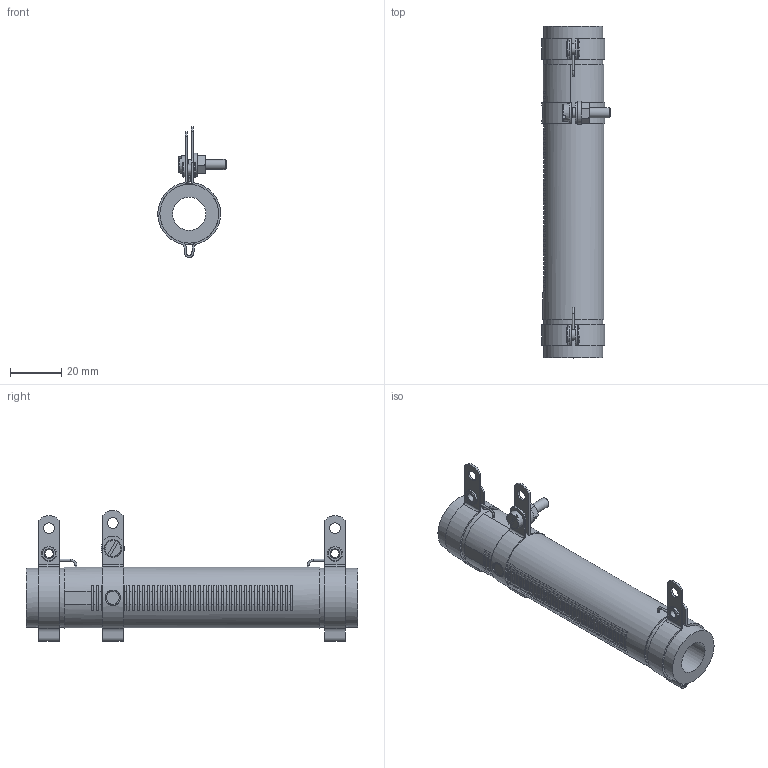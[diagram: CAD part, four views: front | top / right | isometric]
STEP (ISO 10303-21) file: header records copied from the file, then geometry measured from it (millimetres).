
FILE_DESCRIPTION(/* description */ (''),/* implementation_level */ '2;1');
FILE_NAME(/* name */ 'C:\_Vault\Dati\CATALOGO\RC-RS\RCR-RSR TC\RSR TC 90.stp',/* time_stamp */ '2014-03-20T11:27:21+01:00',/* author */ ('stefano'),/* organization */ (''),/* preprocessor_version */ 'ST-DEVELOPER v15.2',/* originating_system */ 'Autodesk Inventor 2014',/* authorisation */ '');
FILE_SCHEMA (('AUTOMOTIVE_DESIGN { 1 0 10303 214 3 1 1 }'));
Length unit declared in the file: millimetre
Products named in the file (1): RSR TC 90
Bounding box: 26.75 x 130 x 51.26 mm (x, y, z)
Volume: 42514 mm3; surface area: 19280.2 mm2
Topology: 1 solids, 5 shells, 377 faces, 1035 edges, 682 vertices
Faces by surface type: plane 241, cylinder 96, cone 16, torus 12, bspline 12
Full cylindrical faces by diameter (mm): 0.4 x2, 0.8 x6, 3.2 x2, 3.571 x1, 4 x2, 4.2 x7, 4.3 x1, 6 x4, 9 x1, 13 x1, 23 x2, 24 x1
Entity records: 12831 total; most frequent: CARTESIAN_POINT 2883, DIRECTION 2010, ORIENTED_EDGE 1950, EDGE_CURVE 975, AXIS2_PLACEMENT_3D 738, VERTEX_POINT 667, LINE 534, VECTOR 534
